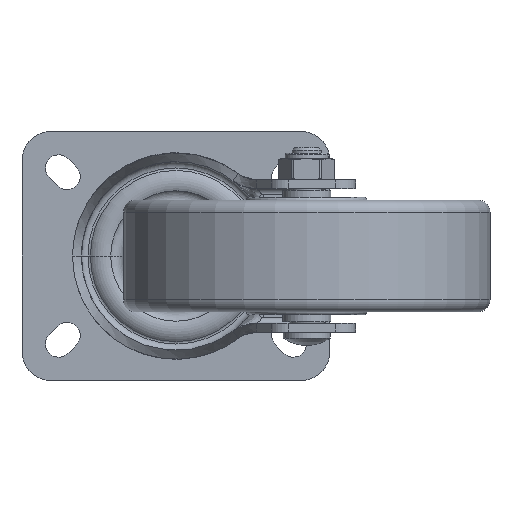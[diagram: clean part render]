
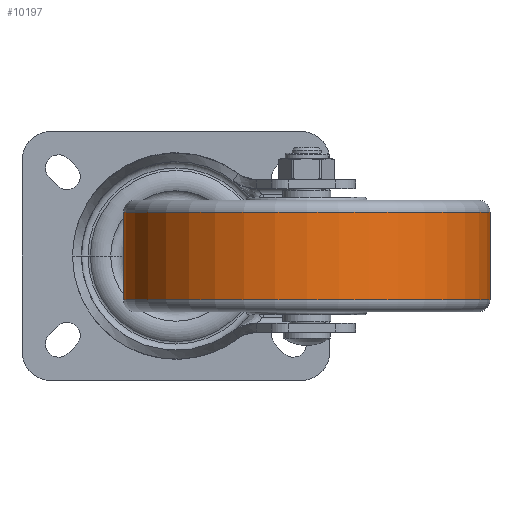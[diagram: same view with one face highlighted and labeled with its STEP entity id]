
A CAD part, front view. The second image highlights one B-rep face of the part: STEP entity #10197.
In plain terms, the highlighted cylindrical face has radius 62.5 mm (diameter 125 mm), a partial arc.
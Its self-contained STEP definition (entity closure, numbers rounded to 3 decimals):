
#9488=CARTESIAN_POINT('',(15.,0.,0.));
#9489=DIRECTION('',(-1.,0.,0.));
#9490=DIRECTION('',(0.,1.,0.));
#9491=AXIS2_PLACEMENT_3D('',#9488,#9489,#9490);
#9498=DIRECTION('',(1.,0.,0.));
#9499=VECTOR('',#9498,30.);
#9500=CARTESIAN_POINT('',(-15.,-62.5,0.));
#9501=LINE('',#9500,#9499);
#9502=DIRECTION('',(1.,0.,0.));
#9503=VECTOR('',#9502,30.);
#9504=CARTESIAN_POINT('',(-15.,62.5,0.));
#9505=LINE('',#9504,#9503);
#9521=CARTESIAN_POINT('',(-15.,0.,0.));
#9522=DIRECTION('',(1.,0.,0.));
#9523=DIRECTION('',(0.,-1.,0.));
#9524=AXIS2_PLACEMENT_3D('',#9521,#9522,#9523);
#9856=CARTESIAN_POINT('',(15.,62.5,0.));
#9857=VERTEX_POINT('',#9856);
#9858=CARTESIAN_POINT('',(15.,-62.5,0.));
#9859=VERTEX_POINT('',#9858);
#9860=CARTESIAN_POINT('',(-15.,62.5,0.));
#9861=VERTEX_POINT('',#9860);
#9862=CARTESIAN_POINT('',(-15.,-62.5,0.));
#9863=VERTEX_POINT('',#9862);
#10183=CARTESIAN_POINT('',(-20.9,0.,0.));
#10184=DIRECTION('',(1.,0.,0.));
#10185=DIRECTION('',(0.,-1.,0.));
#10186=AXIS2_PLACEMENT_3D('',#10183,#10184,#10185);
#10187=CYLINDRICAL_SURFACE('',#10186,62.5);
#10189=ORIENTED_EDGE('',*,*,#10188,.F.);
#10191=ORIENTED_EDGE('',*,*,#10190,.F.);
#10193=ORIENTED_EDGE('',*,*,#10192,.T.);
#10194=ORIENTED_EDGE('',*,*,#10176,.F.);
#10195=EDGE_LOOP('',(#10189,#10191,#10193,#10194));
#10196=FACE_OUTER_BOUND('',#10195,.F.);
#9492=CIRCLE('',#9491,62.5);
#9525=CIRCLE('',#9524,62.5);
#10176=EDGE_CURVE('',#9857,#9859,#9492,.T.);
#10188=EDGE_CURVE('',#9861,#9857,#9505,.T.);
#10190=EDGE_CURVE('',#9863,#9861,#9525,.T.);
#10192=EDGE_CURVE('',#9863,#9859,#9501,.T.);
#10197=ADVANCED_FACE('',(#10196),#10187,.T.);
